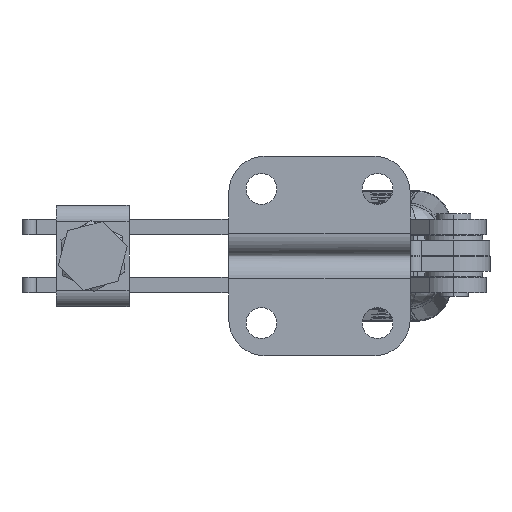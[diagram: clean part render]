
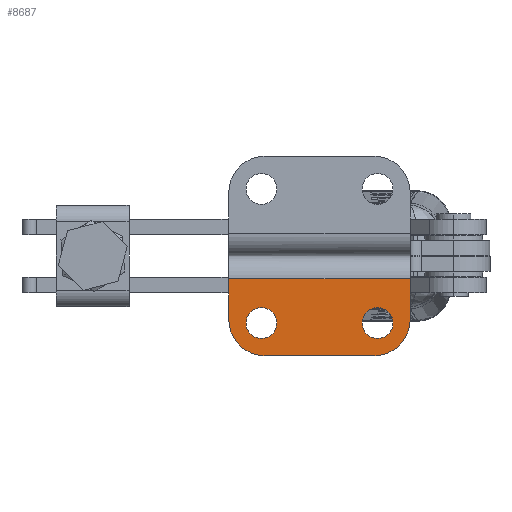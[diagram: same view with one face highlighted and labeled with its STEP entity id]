
A CAD part, front view. The second image highlights one B-rep face of the part: STEP entity #8687.
In plain terms, the highlighted planar face has unit normal (0, -1, 0).
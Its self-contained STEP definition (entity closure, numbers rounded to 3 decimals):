
#283 = CARTESIAN_POINT ( 'NONE',  ( -20.25, 21.48, 14.25 ) ) ;
#932 = VERTEX_POINT ( 'NONE', #21647 ) ;
#1045 = EDGE_CURVE ( 'NONE', #11247, #19879, #10790, .T. ) ;
#1434 = FACE_OUTER_BOUND ( 'NONE', #3380, .T. ) ;
#1819 = VECTOR ( 'NONE', #5970, 1000. ) ;
#2375 = CIRCLE ( 'NONE', #11707, 4.25 ) ;
#2815 = EDGE_CURVE ( 'NONE', #12418, #19879, #14523, .T. ) ;
#3103 = AXIS2_PLACEMENT_3D ( 'NONE', #17842, #6157, #19835 ) ;
#3380 = EDGE_LOOP ( 'NONE', ( #7594, #12713, #24885, #3444, #20900, #3461 ) ) ;
#3415 = CARTESIAN_POINT ( 'NONE',  ( 15., 21.48, 23.25 ) ) ;
#3444 = ORIENTED_EDGE ( 'NONE', *, *, #10375, .F. ) ;
#3461 = ORIENTED_EDGE ( 'NONE', *, *, #4351, .F. ) ;
#3874 = LINE ( 'NONE', #14842, #24044 ) ;
#3891 = CIRCLE ( 'NONE', #24468, 4.25 ) ;
#4160 = VECTOR ( 'NONE', #8379, 1000. ) ;
#4265 = DIRECTION ( 'NONE',  ( 0., 1., 0. ) ) ;
#4351 = EDGE_CURVE ( 'NONE', #22815, #12596, #9254, .T. ) ;
#4930 = ORIENTED_EDGE ( 'NONE', *, *, #16235, .T. ) ;
#5415 = EDGE_CURVE ( 'NONE', #22884, #932, #19328, .T. ) ;
#5455 = CARTESIAN_POINT ( 'NONE',  ( 15., 21.48, 13.25 ) ) ;
#5970 = DIRECTION ( 'NONE',  ( 1., 0., 0. ) ) ;
#5982 = FACE_BOUND ( 'NONE', #22520, .T. ) ;
#6157 = DIRECTION ( 'NONE',  ( 0., 1., 0. ) ) ;
#6901 = CARTESIAN_POINT ( 'NONE',  ( 16., 21.48, 14.25 ) ) ;
#7058 = DIRECTION ( 'NONE',  ( 0., 0., 1. ) ) ;
#7203 = CARTESIAN_POINT ( 'NONE',  ( 15., 21.48, 13.25 ) ) ;
#7408 = DIRECTION ( 'NONE',  ( -1., 0., 0. ) ) ;
#7594 = ORIENTED_EDGE ( 'NONE', *, *, #7758, .F. ) ;
#7758 = EDGE_CURVE ( 'NONE', #12418, #22815, #3874, .T. ) ;
#7774 = CARTESIAN_POINT ( 'NONE',  ( -16., 21.48, 14.25 ) ) ;
#7902 = CIRCLE ( 'NONE', #22598, 4.25 ) ;
#8379 = DIRECTION ( 'NONE',  ( 1., 0., 0. ) ) ;
#8687 = ADVANCED_FACE ( 'NONE', ( #5982, #16355, #1434 ), #22850, .T. ) ;
#8819 = ORIENTED_EDGE ( 'NONE', *, *, #22271, .T. ) ;
#8858 = DIRECTION ( 'NONE',  ( -1., 0., 0. ) ) ;
#8927 = CARTESIAN_POINT ( 'NONE',  ( -25., 21.48, 13.25 ) ) ;
#8990 = AXIS2_PLACEMENT_3D ( 'NONE', #6901, #20599, #8858 ) ;
#9254 = CIRCLE ( 'NONE', #3103, 10. ) ;
#9745 = DIRECTION ( 'NONE',  ( -1., 0., 0. ) ) ;
#9796 = CARTESIAN_POINT ( 'NONE',  ( 25., 21.48, 2. ) ) ;
#10359 = VERTEX_POINT ( 'NONE', #3415 ) ;
#10369 = CARTESIAN_POINT ( 'NONE',  ( 15., 21.48, 2. ) ) ;
#10375 = EDGE_CURVE ( 'NONE', #10359, #11247, #23007, .T. ) ;
#10732 = CARTESIAN_POINT ( 'NONE',  ( 16., 21.48, 14.25 ) ) ;
#10790 = LINE ( 'NONE', #14293, #20588 ) ;
#11247 = VERTEX_POINT ( 'NONE', #17437 ) ;
#11707 = AXIS2_PLACEMENT_3D ( 'NONE', #7774, #21454, #9745 ) ;
#12418 = VERTEX_POINT ( 'NONE', #17160 ) ;
#12596 = VERTEX_POINT ( 'NONE', #22153 ) ;
#12676 = DIRECTION ( 'NONE',  ( -1., 0., 0. ) ) ;
#12713 = ORIENTED_EDGE ( 'NONE', *, *, #2815, .T. ) ;
#13078 = VERTEX_POINT ( 'NONE', #283 ) ;
#13099 = DIRECTION ( 'NONE',  ( -1., 0., 0. ) ) ;
#13132 = AXIS2_PLACEMENT_3D ( 'NONE', #5455, #19138, #7408 ) ;
#13436 = AXIS2_PLACEMENT_3D ( 'NONE', #7203, #24816, #13099 ) ;
#14293 = CARTESIAN_POINT ( 'NONE',  ( 25., 21.48, 13.25 ) ) ;
#14523 = LINE ( 'NONE', #10369, #4160 ) ;
#14842 = CARTESIAN_POINT ( 'NONE',  ( -25., 21.48, -3.45 ) ) ;
#14902 = CARTESIAN_POINT ( 'NONE',  ( 20.25, 21.48, 14.25 ) ) ;
#15676 = CARTESIAN_POINT ( 'NONE',  ( 15., 21.48, 23.25 ) ) ;
#15934 = CARTESIAN_POINT ( 'NONE',  ( -16., 21.48, 14.25 ) ) ;
#16235 = EDGE_CURVE ( 'NONE', #13078, #22602, #7902, .T. ) ;
#16237 = DIRECTION ( 'NONE',  ( 0., 0., -1. ) ) ;
#16355 = FACE_BOUND ( 'NONE', #19807, .T. ) ;
#17160 = CARTESIAN_POINT ( 'NONE',  ( -25., 21.48, 2. ) ) ;
#17437 = CARTESIAN_POINT ( 'NONE',  ( 25., 21.48, 13.25 ) ) ;
#17842 = CARTESIAN_POINT ( 'NONE',  ( -15., 21.48, 13.25 ) ) ;
#17908 = DIRECTION ( 'NONE',  ( -1., 0., 0. ) ) ;
#19138 = DIRECTION ( 'NONE',  ( 0., 1., 0. ) ) ;
#19216 = CARTESIAN_POINT ( 'NONE',  ( -11.75, 21.48, 14.25 ) ) ;
#19328 = CIRCLE ( 'NONE', #8990, 4.25 ) ;
#19807 = EDGE_LOOP ( 'NONE', ( #8819, #4930 ) ) ;
#19835 = DIRECTION ( 'NONE',  ( -1., 0., 0. ) ) ;
#19879 = VERTEX_POINT ( 'NONE', #9796 ) ;
#19885 = EDGE_CURVE ( 'NONE', #12596, #10359, #22577, .T. ) ;
#20232 = ORIENTED_EDGE ( 'NONE', *, *, #21673, .T. ) ;
#20588 = VECTOR ( 'NONE', #16237, 1000. ) ;
#20599 = DIRECTION ( 'NONE',  ( 0., 1., 0. ) ) ;
#20900 = ORIENTED_EDGE ( 'NONE', *, *, #19885, .F. ) ;
#21454 = DIRECTION ( 'NONE',  ( 0., 1., 0. ) ) ;
#21647 = CARTESIAN_POINT ( 'NONE',  ( 11.75, 21.48, 14.25 ) ) ;
#21673 = EDGE_CURVE ( 'NONE', #932, #22884, #3891, .T. ) ;
#22153 = CARTESIAN_POINT ( 'NONE',  ( -15., 21.48, 23.25 ) ) ;
#22271 = EDGE_CURVE ( 'NONE', #22602, #13078, #2375, .T. ) ;
#22520 = EDGE_LOOP ( 'NONE', ( #24671, #20232 ) ) ;
#22577 = LINE ( 'NONE', #15676, #1819 ) ;
#22598 = AXIS2_PLACEMENT_3D ( 'NONE', #15934, #4265, #17908 ) ;
#22602 = VERTEX_POINT ( 'NONE', #19216 ) ;
#22815 = VERTEX_POINT ( 'NONE', #8927 ) ;
#22850 = PLANE ( 'NONE',  #13436 ) ;
#22884 = VERTEX_POINT ( 'NONE', #14902 ) ;
#23007 = CIRCLE ( 'NONE', #13132, 10. ) ;
#24044 = VECTOR ( 'NONE', #7058, 1000. ) ;
#24394 = DIRECTION ( 'NONE',  ( 0., 1., 0. ) ) ;
#24468 = AXIS2_PLACEMENT_3D ( 'NONE', #10732, #24394, #12676 ) ;
#24671 = ORIENTED_EDGE ( 'NONE', *, *, #5415, .T. ) ;
#24816 = DIRECTION ( 'NONE',  ( 0., -1., 0. ) ) ;
#24885 = ORIENTED_EDGE ( 'NONE', *, *, #1045, .F. ) ;
